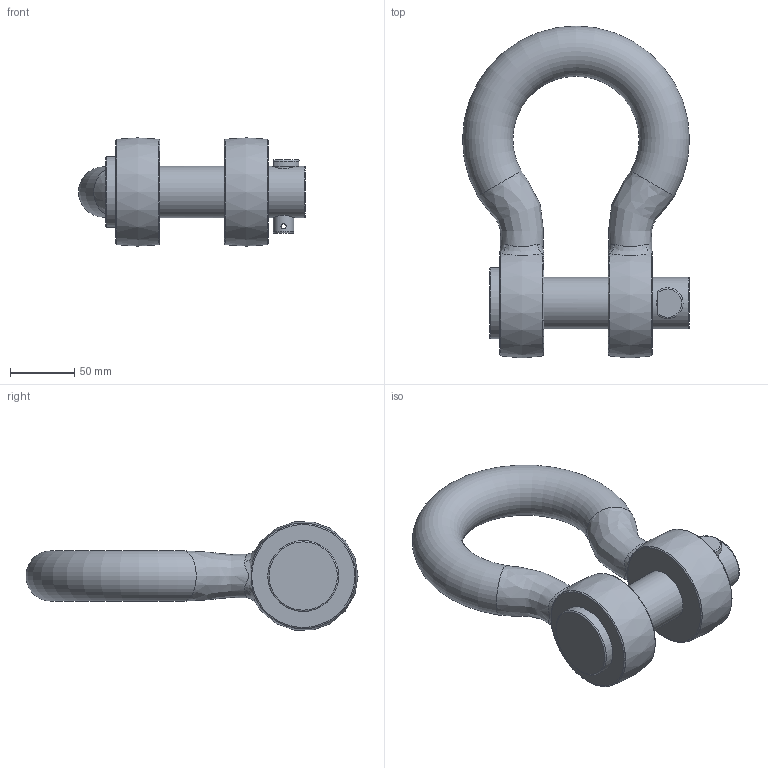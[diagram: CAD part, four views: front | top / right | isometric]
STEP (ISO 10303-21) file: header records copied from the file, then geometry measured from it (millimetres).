
FILE_DESCRIPTION(/* description */ (''),/* implementation_level */ '2;1');
FILE_NAME(/* name */ 'C:\Users\D\Documents\Inventor\HP\吊具\シャックル\BA_2\ba_34.stp',/* time_stamp */ '2024-11-20T10:45:19+09:00',/* author */ ('D'),/* organization */ (''),/* preprocessor_version */ 'ST-DEVELOPER v18',/* originating_system */ 'Autodesk Inventor 2020',/* authorisation */ '');
FILE_SCHEMA (('AUTOMOTIVE_DESIGN { 1 0 10303 214 3 1 1 }'));
Length unit declared in the file: millimetre
Products named in the file (4): ba_34; ba_6; ba-sa_pin1_34; ba-sa_pin2_34
Assembly tree (3 placements, depth 2):
  ba_34
    ba_6
    ba-sa_pin1_34
    ba-sa_pin2_34
Bounding box: 176 x 257.5 x 83.96 mm (x, y, z)
Volume: 950768.4 mm3; surface area: 123057.9 mm2
Topology: 5 solids, 5 shells, 44 faces, 120 edges, 84 vertices
Faces by surface type: plane 15, bspline 12, torus 9, cylinder 8
Full cylindrical faces by diameter (mm): 4 x1, 16 x1, 17 x1, 40 x1, 41 x2, 55 x1
Entity records: 2961 total; most frequent: CARTESIAN_POINT 1731, ORIENTED_EDGE 236, DIRECTION 227, EDGE_CURVE 118, AXIS2_PLACEMENT_3D 107, VERTEX_POINT 84, CIRCLE 68, EDGE_LOOP 52
